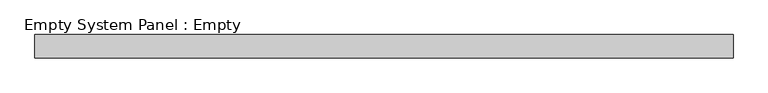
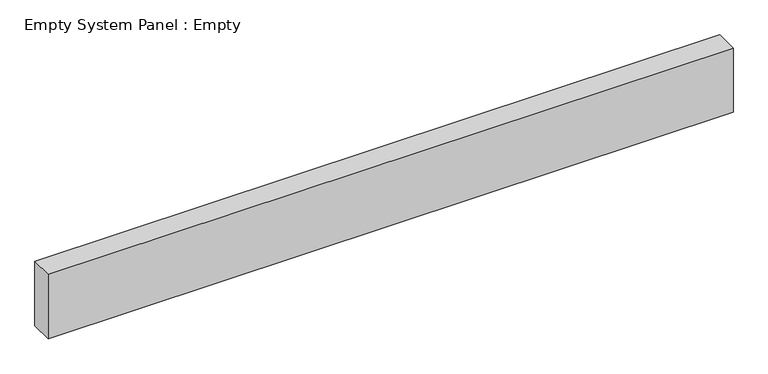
"""IFC4 building model written with IfcOpenShell, lengths in millimetres: plate geometry, Empty System Panel : Empty."""

import ifcopenshell
import ifcopenshell.guid

model = None  # the IFC model being written
_history = None  # IfcOwnerHistory: only IFC2X3 demands one
_inside = {}  # id of a spatial element -> (the spatial element, [elements in it])
_under = {}  # id of a project, library or spatial element -> (it, [spatial elements below it])
_declared = {}  # id of a project -> (the project, [libraries it declares])
_typed = {}  # id of a type object -> (the type object, [elements of that type])
_made_of = {}  # id of a material, layer set ... -> (it, [elements and type objects made of it])


def new_model(schema):
    """Start an empty IFC model of exactly this schema.

    Asked for "IFC4X3", IfcOpenShell would pick the latest addendum, in which some entities
    have other attributes; the version numbers below select the first issue.
    IFC2X3 requires an IfcOwnerHistory on every rooted entity: one is made here for all.
    """
    global model, _history
    if schema == "IFC4X3":
        model = ifcopenshell.file(schema_version=(4, 3, 0, 0))
    else:
        model = ifcopenshell.file(schema=schema)
    _inside.clear()
    _under.clear()
    _declared.clear()
    _typed.clear()
    _made_of.clear()
    _history = None
    if model.schema == "IFC2X3":
        org = make("IfcOrganization", Name="unknown")
        user = make(
            "IfcPersonAndOrganization",
            ThePerson=make("IfcPerson", FamilyName="unknown"),
            TheOrganization=org,
        )
        app = make(
            "IfcApplication",
            ApplicationDeveloper=org,
            Version="unknown",
            ApplicationFullName="unknown",
            ApplicationIdentifier="unknown",
        )
        _history = make(
            "IfcOwnerHistory",
            OwningUser=user,
            OwningApplication=app,
            ChangeAction="ADDED",
            CreationDate=0,
        )
    return model


def make(cls, **values):
    """One entity of the class cls with the attributes given. An attribute that is None is left unset."""
    return model.create_entity(
        cls, **{name: value for name, value in values.items() if value is not None}
    )


def rooted(cls, **values):
    """An entity with a GlobalId (a new one), such as an element, a storey or a relation."""
    return make(cls, GlobalId=ifcopenshell.guid.new(), OwnerHistory=_history, **values)


def si_unit(unit_type, name, prefix=None):
    """IfcSIUnit, for example si_unit("LENGTHUNIT", "METRE", prefix="MILLI")."""
    return make("IfcSIUnit", UnitType=unit_type, Prefix=prefix, Name=name)


def assignment(units):
    """IfcUnitAssignment: the units of a project."""
    return None if units is None else make("IfcUnitAssignment", Units=units)


def point(xyz):
    """IfcCartesianPoint."""
    return None if xyz is None else make("IfcCartesianPoint", Coordinates=xyz)


def direction(xyz):
    """IfcDirection."""
    return None if xyz is None else make("IfcDirection", DirectionRatios=xyz)


def frame(location, z_axis=None, x_axis=None):
    """IfcAxis2Placement3D, a coordinate frame: its origin and axes. An axis left out is left unset."""
    return make(
        "IfcAxis2Placement3D",
        Location=point(location),
        Axis=direction(z_axis),
        RefDirection=direction(x_axis),
    )


def origin():
    """The frame at (0, 0, 0) with its axes left unset."""
    return frame((0.0, 0.0, 0.0))


def origin_with_axes():
    """The frame at (0, 0, 0) with the z axis (0, 0, 1) and the x axis (1, 0, 0) written out."""
    return frame((0.0, 0.0, 0.0), z_axis=(0.0, 0.0, 1.0), x_axis=(1.0, 0.0, 0.0))


def place(relative_to, where):
    """IfcLocalPlacement: puts the frame where relative to a parent placement (None: the world)."""
    return make(
        "IfcLocalPlacement", PlacementRelTo=relative_to, RelativePlacement=where
    )


def context(
    kind, dimensions, precision=None, world=None, true_north=None, identifier=None
):
    """IfcGeometricRepresentationContext, for example the 3D "Model" context."""
    return make(
        "IfcGeometricRepresentationContext",
        ContextIdentifier=identifier,
        ContextType=kind,
        CoordinateSpaceDimension=dimensions,
        Precision=precision,
        WorldCoordinateSystem=world,
        TrueNorth=true_north,
    )


def project(units=None, contexts=None):
    """IfcProject with its units and contexts."""
    return rooted(
        "IfcProject",
        Name="project",
        RepresentationContexts=contexts,
        UnitsInContext=assignment(units),
    )


def spatial(cls, under=None, at=None, **own):
    """A site, building, storey or space (cls), placed at a placement, below another one or the project."""
    s = rooted(cls, ObjectPlacement=at, **own)
    if under is not None:
        _under.setdefault(under.id(), (under, []))[1].append(s)
    return s


def polyline(points):
    """IfcPolyline through the points."""
    return make("IfcPolyline", Points=[point(p) for p in points])


def outline(outer, holes=None, kind="AREA"):
    """IfcArbitraryClosedProfileDef: a profile drawn as a closed curve; with holes, ...WithVoids."""
    if holes is None:
        return make("IfcArbitraryClosedProfileDef", ProfileType=kind, OuterCurve=outer)
    return make(
        "IfcArbitraryProfileDefWithVoids",
        ProfileType=kind,
        OuterCurve=outer,
        InnerCurves=holes,
    )


def extrude(swept, where, along, depth):
    """IfcExtrudedAreaSolid: the profile swept, set in the frame where, extruded along a direction by depth."""
    return make(
        "IfcExtrudedAreaSolid",
        SweptArea=swept,
        Position=where,
        ExtrudedDirection=direction(along),
        Depth=depth,
    )


def shape(context_of_items, identifier, shape_type, items):
    """IfcShapeRepresentation: the items that make up one representation, for example the "Body"."""
    return make(
        "IfcShapeRepresentation",
        ContextOfItems=context_of_items,
        RepresentationIdentifier=identifier,
        RepresentationType=shape_type,
        Items=items,
    )


def source(mapping_origin, context_of_items, identifier, shape_type, items):
    """IfcRepresentationMap: a shape defined once, which mapped items show again and again."""
    return make(
        "IfcRepresentationMap",
        MappingOrigin=mapping_origin,
        MappedRepresentation=shape(context_of_items, identifier, shape_type, items),
    )


def transform(
    local_origin,
    x_axis=None,
    y_axis=None,
    z_axis=None,
    scale=None,
    scale2=None,
    scale3=None,
    uniform=True,
):
    """IfcCartesianTransformationOperator3D, or its non-uniform kind. x_axis, y_axis, z_axis: its Axis1, 2, 3."""
    if uniform:
        return make(
            "IfcCartesianTransformationOperator3D",
            Axis1=direction(x_axis),
            Axis2=direction(y_axis),
            LocalOrigin=point(local_origin),
            Scale=scale,
            Axis3=direction(z_axis),
        )
    return make(
        "IfcCartesianTransformationOperator3DnonUniform",
        Axis1=direction(x_axis),
        Axis2=direction(y_axis),
        LocalOrigin=point(local_origin),
        Scale=scale,
        Axis3=direction(z_axis),
        Scale2=scale2,
        Scale3=scale3,
    )


def mapped(mapping_source, mapping_target):
    """IfcMappedItem: shows the shape of a source again, moved by a transform."""
    return make(
        "IfcMappedItem", MappingSource=mapping_source, MappingTarget=mapping_target
    )


def made_of(thing, what):
    """Note that an element or type object is made of a material, layer set ...; save() writes the relation."""
    if what is not None:
        _made_of.setdefault(what.id(), (what, []))[1].append(thing)
    return thing


def element(
    cls,
    number,
    at=None,
    inside=None,
    cuts=None,
    type_object=None,
    material=None,
    context=None,
    identifier="Body",
    shape_type=None,
    held_by="IfcProductDefinitionShape",
    body=None,
    shapes=None,
    **own,
):
    """One element of the class cls, such as IfcWall. Its Tag is "e" and its number.

    at: its placement. inside: the storey or other place that contains it. cuts: it is an
    opening in that element (IfcRelVoidsElement). A single representation is given by context,
    identifier, shape_type and body (its items); several are given by shapes. held_by: the class
    of the entity that holds the representations. save() writes the other relations.
    """
    e = rooted(cls, Tag="e%d" % number, ObjectPlacement=at, **own)
    if body is not None:
        shapes = [shape(context, identifier, shape_type, body)]
    if shapes is not None:
        e.Representation = make(held_by, Representations=shapes)
    if inside is not None:
        _inside.setdefault(inside.id(), (inside, []))[1].append(e)
    if cuts is not None:
        rooted(
            "IfcRelVoidsElement", RelatingBuildingElement=cuts, RelatedOpeningElement=e
        )
    if type_object is not None:
        _typed.setdefault(type_object.id(), (type_object, []))[1].append(e)
    return made_of(e, material)


def aggregate(whole, parts):
    """IfcRelAggregates: a whole, such as a stair, and the parts it consists of."""
    return rooted("IfcRelAggregates", RelatingObject=whole, RelatedObjects=parts)


def save(model, path):
    """Write the relations noted so far, then the file.

    IfcRelAggregates (storeys below a building ...), IfcRelContainedInSpatialStructure (elements
    in a storey), IfcRelDefinesByType, IfcRelAssociatesMaterial and IfcRelDeclares: one each for
    every whole, place, type object, material and project.
    """
    for whole, parts in _under.values():
        aggregate(whole, parts)
    for where, things in _inside.values():
        rooted(
            "IfcRelContainedInSpatialStructure",
            RelatedElements=things,
            RelatingStructure=where,
        )
    for kind, things in _typed.values():
        rooted("IfcRelDefinesByType", RelatedObjects=things, RelatingType=kind)
    for what, things in _made_of.values():
        rooted("IfcRelAssociatesMaterial", RelatedObjects=things, RelatingMaterial=what)
    for by, libraries in _declared.values():
        rooted("IfcRelDeclares", RelatingContext=by, RelatedDefinitions=libraries)
    model.write(path)


def empty_system_panel_empty_ca83fffd(model_context):
    return source(origin(), model_context, "Body", "SweptSolid", [
        extrude(outline(polyline([(1500.0, -50.0), (-1500.0, -50.0), (-1500.0, 50.0), (1500.0, 50.0), (1500.0, -50.0)])), origin_with_axes(), (0.0, 0.0, 1.0), 297.6740982),
    ])


if __name__ == "__main__":
    model = new_model("IFC4")
    model_context = context("Model", 3, world=origin())
    ifc_project = project(units=[si_unit("LENGTHUNIT", "METRE", prefix="MILLI")], contexts=[model_context])
    site = spatial("IfcSite", under=ifc_project)
    building = spatial("IfcBuilding", under=site)
    placement = place(None, origin())
    empty_system_panel_empty_shape = empty_system_panel_empty_ca83fffd(model_context)
    element("IfcPlate", 1, ObjectType="Empty System Panel : Empty", at=placement, inside=building, context=model_context, shape_type="MappedRepresentation", body=[
        mapped(empty_system_panel_empty_shape, transform((0.0, 0.0, 0.0), x_axis=(1.0, 0.0, 0.0), y_axis=(0.0, 1.0, 0.0), z_axis=(0.0, 0.0, 1.0))),
    ])
    save(model, "model.ifc")
